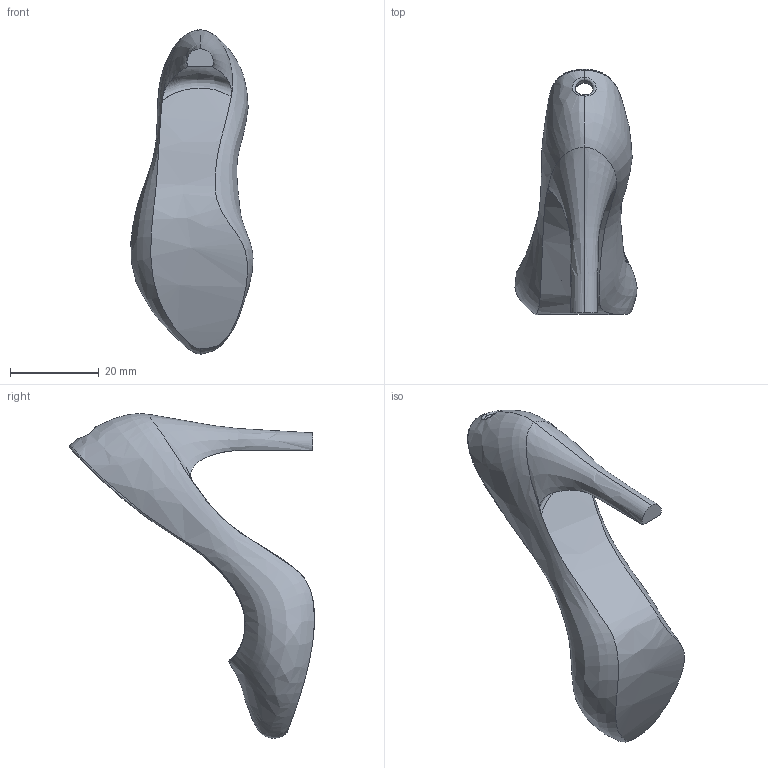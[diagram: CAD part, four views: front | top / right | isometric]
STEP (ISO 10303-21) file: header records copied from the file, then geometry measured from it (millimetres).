
FILE_DESCRIPTION (( 'STEP AP203' ), '1' );
FILE_NAME ('escarpin PMC 1.STEP', '2014-04-07T14:34:16', ( 'PMComposites' ), ( 'Microsoft' ), 'SwSTEP 2.0', 'SolidWorks 2010', '' );
FILE_SCHEMA (( 'CONFIG_CONTROL_DESIGN' ));
Products named in the file (1): escarpin PMC 1
Bounding box: 27.6 x 55.33 x 73.31 mm (x, y, z)
Volume: 5574.6 mm3; surface area: 9015.5 mm2
Topology: 1 solids, 1 shells, 180 faces, 494 edges, 325 vertices
Faces by surface type: bspline 125, plane 48, torus 4, cylinder 3
Entity records: 39082 total; most frequent: CARTESIAN_POINT 35450, ORIENTED_EDGE 988, EDGE_CURVE 494, B_SPLINE_CURVE_WITH_KNOTS 334, VERTEX_POINT 325, DIRECTION 292, EDGE_LOOP 191, FACE_OUTER_BOUND 180
